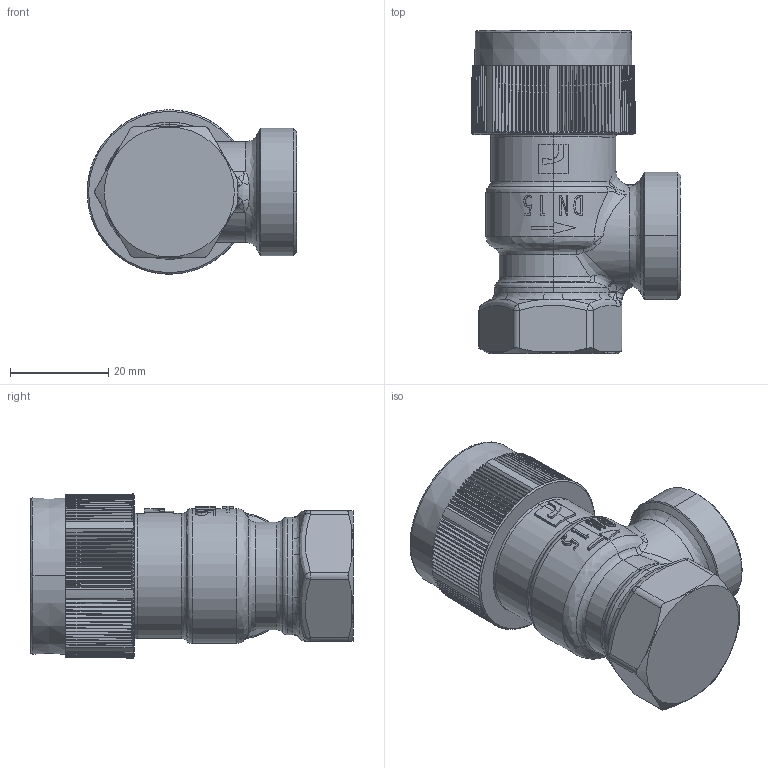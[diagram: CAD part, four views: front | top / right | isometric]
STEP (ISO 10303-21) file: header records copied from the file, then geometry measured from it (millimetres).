
FILE_DESCRIPTION (( 'STEP AP203' ), '1' );
FILE_NAME ('443115D.STEP', '2021-06-23T06:02:33', ( '' ), ( '' ), 'SwSTEP 2.0', 'SolidWorks 2016', '' );
FILE_SCHEMA (( 'CONFIG_CONTROL_DESIGN' ));
Length unit declared in the file: millimetre
Products named in the file (1): 443115D
Bounding box: 42.75 x 65.85 x 33.5 mm (x, y, z)
Volume: 47922.5 mm3; surface area: 9851.2 mm2
Topology: 1 solids, 1 shells, 719 faces, 1924 edges, 1203 vertices
Faces by surface type: plane 266, cylinder 185, bspline 134, cone 134
Entity records: 28094 total; most frequent: CARTESIAN_POINT 12403, ORIENTED_EDGE 3826, DIRECTION 2532, EDGE_CURVE 1913, VERTEX_POINT 1203, AXIS2_PLACEMENT_3D 912, EDGE_LOOP 726, ADVANCED_FACE 719
